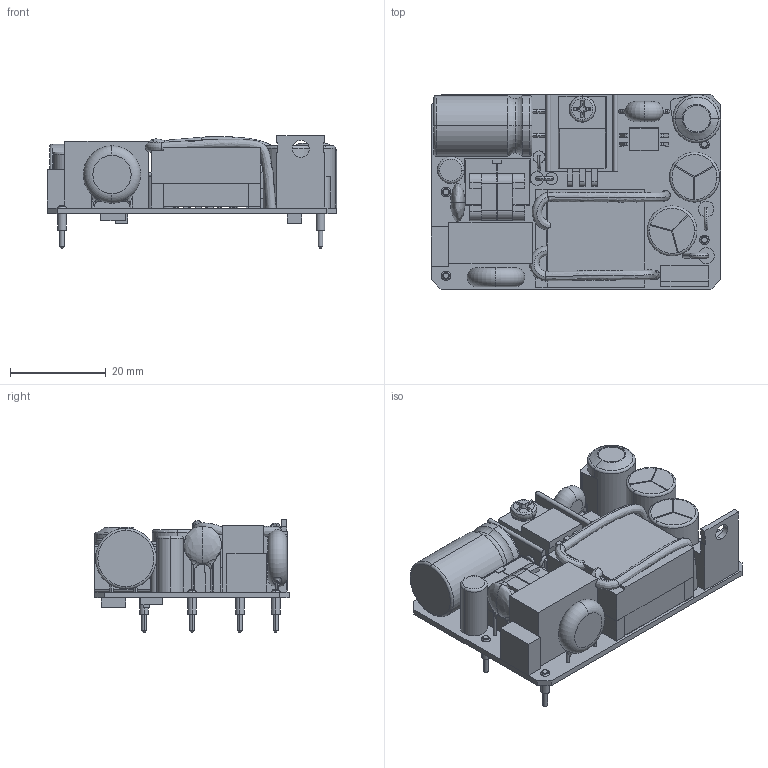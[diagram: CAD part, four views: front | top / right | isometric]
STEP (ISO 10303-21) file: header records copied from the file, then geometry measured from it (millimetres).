
FILE_DESCRIPTION (( 'STEP AP214' ), '1' );
FILE_NAME ('CFM21 SERIES SPEC(M-G014-01-D)-990727.STEP', '2018-02-26T01:06:11', ( 'cincon' ), ( '' ), 'SwSTEP 2.0', 'SolidWorks 2008', '' );
FILE_SCHEMA (( 'AUTOMOTIVE_DESIGN' ));
Length unit declared in the file: millimetre
Products named in the file (4): CFM21 SERIES SPEC(M-G014-01-D)-990727_預設; 電晶體10mm(附螺絲); CFM21 SERIES散熱片-980706; CFM21 SERIES SPEC(M-G014-01-D)-990727
Assembly tree (3 placements, depth 2):
  CFM21 SERIES SPEC(M-G014-01-D)-990727
    電晶體10mm(附螺絲)
    CFM21 SERIES散熱片-980706
    CFM21 SERIES SPEC(M-G014-01-D)-990727_預設
Bounding box: 60.45 x 40.64 x 23.51 mm (x, y, z)
Volume: 21057.9 mm3; surface area: 17327.6 mm2
Topology: 3 solids, 3 shells, 609 faces, 1622 edges, 1039 vertices
Faces by surface type: plane 347, cylinder 149, torus 51, bspline 35, cone 27
Entity records: 26255 total; most frequent: CARTESIAN_POINT 7861, ORIENTED_EDGE 3236, DIRECTION 3006, EDGE_CURVE 1618, VERTEX_POINT 1039, VECTOR 1010, LINE 1010, AXIS2_PLACEMENT_3D 998
